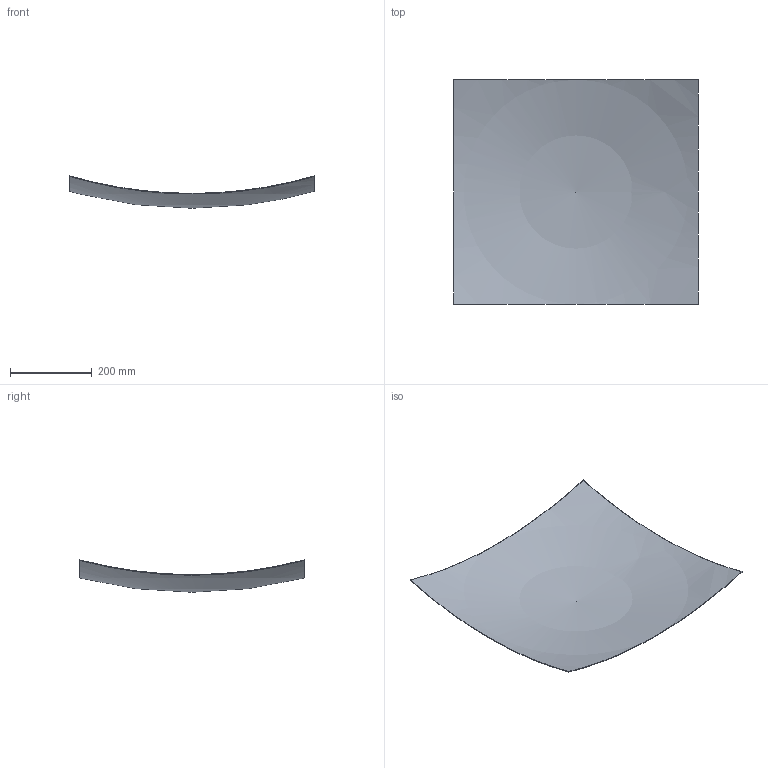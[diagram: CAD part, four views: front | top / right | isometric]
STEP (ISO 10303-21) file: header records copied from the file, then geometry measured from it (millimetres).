
FILE_DESCRIPTION( ( 'Unknown' ), '1' );
FILE_NAME( 'C:/Users/Lee/Documents/HGC Work/Solid Edge/heavy_gas_cherenkov_v5/step/CF_mirror_backing.stp', 'Unknown', ( 'Unknown' ), ( 'Unknown' ), 'PSStep 13.0', 'Unknown', ' ' );
FILE_SCHEMA( ( 'AUTOMOTIVE_DESIGN { 1 0 10303 214 1 1 1 1 }' ) );
Length unit declared in the file: millimetre
Products named in the file (1): 1
Bounding box: 600 x 550 x 79.32 mm (x, y, z)
Volume: 506787.1 mm3; surface area: 679334.6 mm2
Topology: 1 solids, 1 shells, 6 faces, 18 edges, 12 vertices
Faces by surface type: plane 4, sphere 2
Entity records: 228 total; most frequent: DIRECTION 34, CARTESIAN_POINT 27, ORIENTED_EDGE 24, AXIS2_PLACEMENT_3D 15, EDGE_CURVE 12, VERTEX_POINT 8, CIRCLE 8, STYLED_ITEM 6
